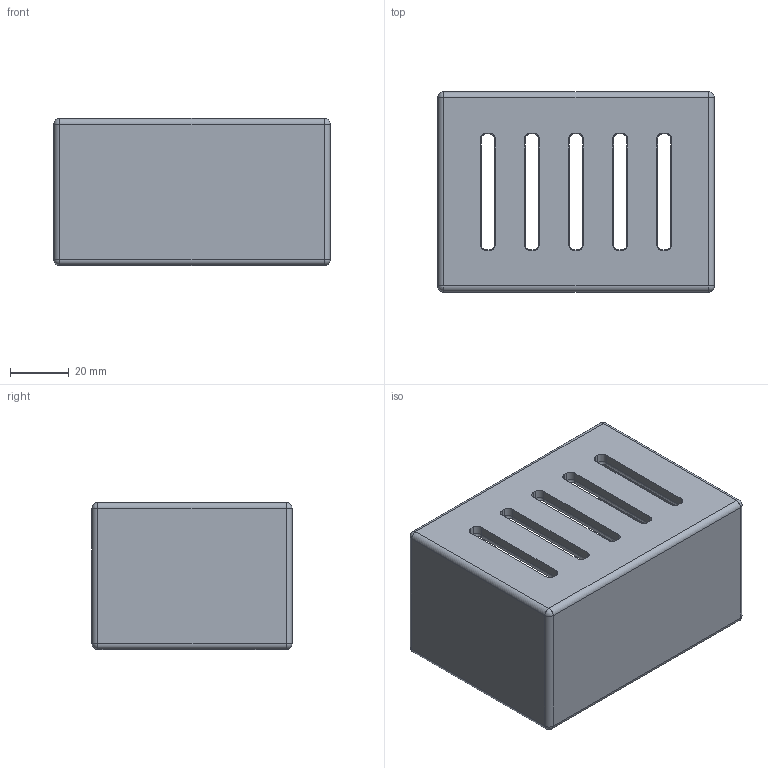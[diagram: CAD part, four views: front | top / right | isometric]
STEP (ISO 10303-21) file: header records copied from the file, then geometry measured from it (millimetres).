
FILE_DESCRIPTION(('Open CASCADE Model'),'2;1');
FILE_NAME('Open CASCADE Shape Model','2026-11-04T08:45:16',('Author'),( 'Open CASCADE'),'Open CASCADE STEP processor 7.8','Open CASCADE 7.8' ,'Unknown');
FILE_SCHEMA(('AUTOMOTIVE_DESIGN { 1 0 10303 214 1 1 1 1 }'));
Length unit declared in the file: millimetre
Products named in the file (1): Open CASCADE STEP translator 7.8 8
Bounding box: 94 x 68 x 50 mm (x, y, z)
Volume: 52810.1 mm3; surface area: 35225.1 mm2
Topology: 1 solids, 1 shells, 115 faces, 283 edges, 162 vertices
Faces by surface type: cylinder 51, plane 36, sphere 28
Entity records: 6804 total; most frequent: CARTESIAN_POINT 1205, DIRECTION 1079, LINE 557, VECTOR 557, ORIENTED_EDGE 550, PCURVE 550, DEFINITIONAL_REPRESENTATION 550, EDGE_CURVE 275
